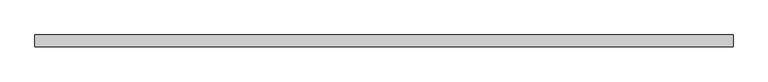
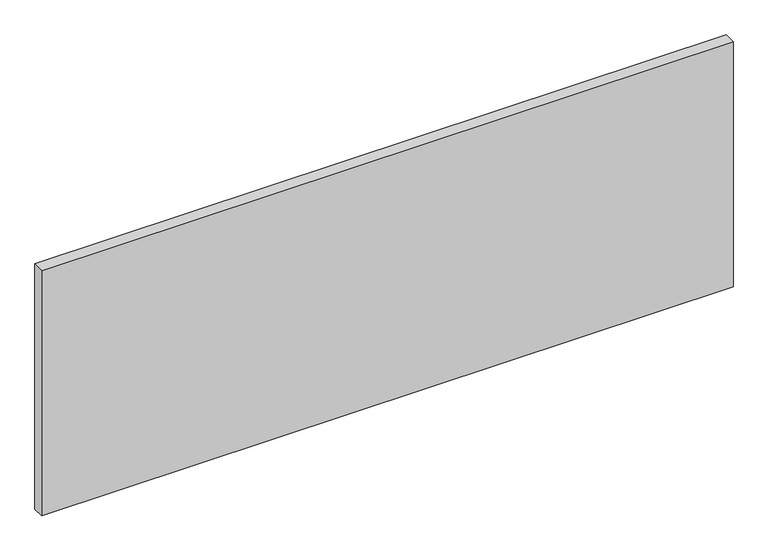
"""IFC4 building model written with IfcOpenShell, lengths in millimetres: proxy geometry, GM_Панель фасадная : Декоративные перемычки."""

from ifc_helpers import new_model, si_unit, origin, origin_with_axes, place, context, project, spatial, polyline, outline, extrude, source, transform, mapped, element, save


def generic_models_ffb89bf8(model_context):
    return source(origin(), model_context, "Body", "SweptSolid", [
        extrude(outline(polyline([(-1075.0, 125.0), (125.0, 125.0), (125.0, 105.0), (-1075.0, 105.0), (-1075.0, 125.0)])), origin_with_axes(), (0.0, 0.0, 1.0), 450.0),
    ])


if __name__ == "__main__":
    model = new_model("IFC4")
    model_context = context("Model", 3, world=origin())
    ifc_project = project(units=[si_unit("LENGTHUNIT", "METRE", prefix="MILLI")], contexts=[model_context])
    site = spatial("IfcSite", under=ifc_project)
    building = spatial("IfcBuilding", under=site)
    placement = place(None, origin())
    generic_models_shape = generic_models_ffb89bf8(model_context)
    element("IfcBuildingElementProxy", 1, Name="GM_Панель фасадная : Декоративные перемычки", ObjectType="GM_Панель фасадная : Декоративные перемычки", at=placement, inside=building, context=model_context, shape_type="MappedRepresentation", body=[
        mapped(generic_models_shape, transform((0.0, 0.0, 0.0), x_axis=(1.0, 0.0, 0.0), y_axis=(0.0, 1.0, 0.0), z_axis=(0.0, 0.0, 1.0))),
    ])
    save(model, "model.ifc")
